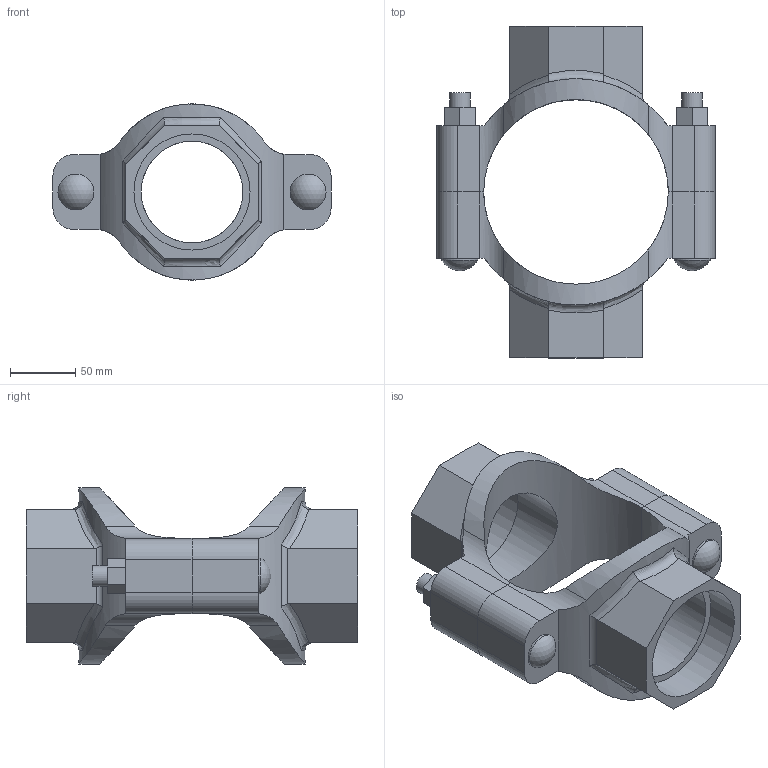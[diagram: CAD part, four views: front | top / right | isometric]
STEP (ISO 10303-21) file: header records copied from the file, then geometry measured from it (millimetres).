
FILE_DESCRIPTION(/* description */ ('VIC MECH-T BRANCH OUTLET CROSS STYLE 920N (THD)','CAx-IF Rec.Pracs.---Representation and Presentation of Product Manufacturing Information (PMI)---4.0---2014-10-13'),/* implementation_level */ '2;1');
FILE_NAME(/* name */ 'C:\Users\Vjadhav\AppData\Roaming\Autodesk\ApplicationPlugins\Back Up\Victaulic_IPS_Mechanical-Cross Outlet_Style 920N (FPT)\Victaulic_IPS_Mechanical-Cross Outlet_05.0x03.0x03.0 (125x80x80).stp',/* time_stamp */ '2020-08-06T18:59:30+05:00',/* author */ ('Vjadhav'),/* organization */ ('Victaulic'),/* preprocessor_version */ 'ST-DEVELOPER v17.2',/* originating_system */ 'Autodesk Inventor 2019',/* authorisation */ '');
FILE_SCHEMA (('AP242_MANAGED_MODEL_BASED_3D_ENGINEERING_MIM_LF { 1 0 10303 442 1 1 4 }'));
Length unit declared in the file: inch
Products named in the file (3): 920NT-05.0x03.0x03.0; 920T-05.0x03.0; 920T-05.0x03.0_1
Assembly tree (2 placements, depth 2):
  920NT-05.0x03.0x03.0
    920T-05.0x03.0
    920T-05.0x03.0_1
Bounding box: 212.85 x 254 x 134.87 mm (x, y, z)
Volume: 1090451 mm3; surface area: 198536.5 mm2
Topology: 2 solids, 2 shells, 128 faces, 338 edges, 228 vertices
Faces by surface type: plane 68, cylinder 46, bspline 8, torus 4, sphere 2
Full cylindrical faces by diameter (mm): 15.875 x4, 27.496 x2, 77.787 x2, 88.9 x2
Entity records: 5142 total; most frequent: CARTESIAN_POINT 1737, ORIENTED_EDGE 676, DIRECTION 628, EDGE_CURVE 338, VERTEX_POINT 228, AXIS2_PLACEMENT_3D 223, LINE 182, VECTOR 182
